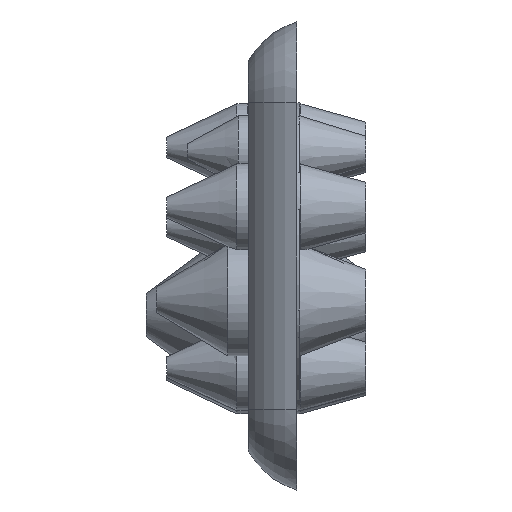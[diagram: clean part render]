
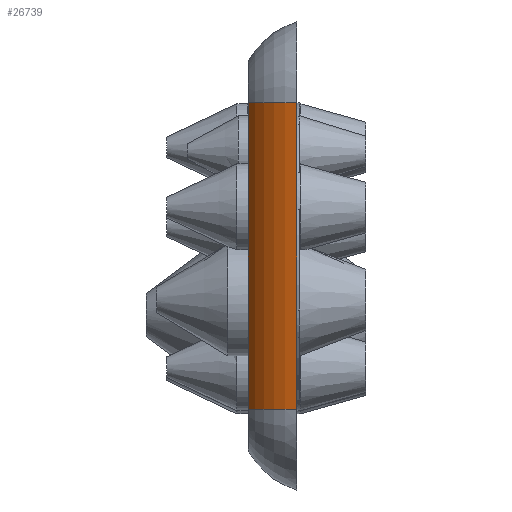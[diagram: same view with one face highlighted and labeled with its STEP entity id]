
A CAD part, left-side view. The second image highlights one B-rep face of the part: STEP entity #26739.
In plain terms, the highlighted cylindrical face has radius 16.3 mm (diameter 32.6 mm), a partial arc.
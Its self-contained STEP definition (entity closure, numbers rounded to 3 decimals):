
#2409 = CARTESIAN_POINT ( 'NONE',  ( 15.431, -6.7, -75.7 ) ) ;
#2410 = DIRECTION ( 'NONE',  ( 0., 0., 1. ) ) ;
#2411 = DIRECTION ( 'NONE',  ( 1., 0., 0. ) ) ;
#2415 = DIRECTION ( 'NONE',  ( 0., 0., -1. ) ) ;
#2419 = CARTESIAN_POINT ( 'NONE',  ( 7.428, 7.5, -15.7 ) ) ;
#2420 = CARTESIAN_POINT ( 'NONE',  ( 15.431, -6.7, -15.7 ) ) ;
#2421 = DIRECTION ( 'NONE',  ( 0., 0., 1. ) ) ;
#2422 = DIRECTION ( 'NONE',  ( 1., 0., 0. ) ) ;
#2423 = CARTESIAN_POINT ( 'NONE',  ( -0.176, -2., -15.7 ) ) ;
#2424 = DIRECTION ( 'NONE',  ( 0., 0., -1. ) ) ;
#4164 = CIRCLE ( 'NONE', #8665, 16.3 ) ;
#4167 = LINE ( 'NONE', #2419, #4172 ) ;
#4169 = CIRCLE ( 'NONE', #8668, 16.3 ) ;
#4171 = LINE ( 'NONE', #2423, #4174 ) ;
#4172 = VECTOR ( 'NONE', #2415, 1000. ) ;
#4174 = VECTOR ( 'NONE', #2424, 1000. ) ;
#8665 = AXIS2_PLACEMENT_3D ( 'NONE', #2409, #2410, #2411 ) ;
#8668 = AXIS2_PLACEMENT_3D ( 'NONE', #2420, #2421, #2422 ) ;
#9731 = ORIENTED_EDGE ( 'NONE', *, *, #31069, .F. ) ;
#9732 = ORIENTED_EDGE ( 'NONE', *, *, #31070, .T. ) ;
#9733 = ORIENTED_EDGE ( 'NONE', *, *, #31066, .T. ) ;
#9734 = ORIENTED_EDGE ( 'NONE', *, *, #31071, .F. ) ;
#10970 = EDGE_LOOP ( 'NONE', ( #9731, #9732, #9733, #9734 ) ) ;
#12838 = CARTESIAN_POINT ( 'NONE',  ( 7.428, 7.5, -15.7 ) ) ;
#12840 = CARTESIAN_POINT ( 'NONE',  ( 7.428, 7.5, -75.7 ) ) ;
#12842 = CARTESIAN_POINT ( 'NONE',  ( -0.176, -2., -15.7 ) ) ;
#12847 = CARTESIAN_POINT ( 'NONE',  ( -0.176, -2., -75.7 ) ) ;
#15742 = DIRECTION ( 'NONE',  ( -1., 0., 0. ) ) ;
#15743 = DIRECTION ( 'NONE',  ( 0., 0., -1. ) ) ;
#15746 = CARTESIAN_POINT ( 'NONE',  ( 15.431, -6.7, -15.7 ) ) ;
#21834 = FACE_OUTER_BOUND ( 'NONE', #10970, .T. ) ;
#21836 = CYLINDRICAL_SURFACE ( 'NONE', #24155, 16.3 ) ;
#24155 = AXIS2_PLACEMENT_3D ( 'NONE', #15746, #15743, #15742 ) ;
#26739 = ADVANCED_FACE ( 'NONE', ( #21834 ), #21836, .T. ) ;
#31066 = EDGE_CURVE ( 'NONE', #36016, #36023, #4164, .T. ) ;
#31069 = EDGE_CURVE ( 'NONE', #36014, #36018, #4169, .T. ) ;
#31070 = EDGE_CURVE ( 'NONE', #36014, #36016, #4167, .T. ) ;
#31071 = EDGE_CURVE ( 'NONE', #36018, #36023, #4171, .T. ) ;
#36014 = VERTEX_POINT ( 'NONE', #12838 ) ;
#36016 = VERTEX_POINT ( 'NONE', #12840 ) ;
#36018 = VERTEX_POINT ( 'NONE', #12842 ) ;
#36023 = VERTEX_POINT ( 'NONE', #12847 ) ;
